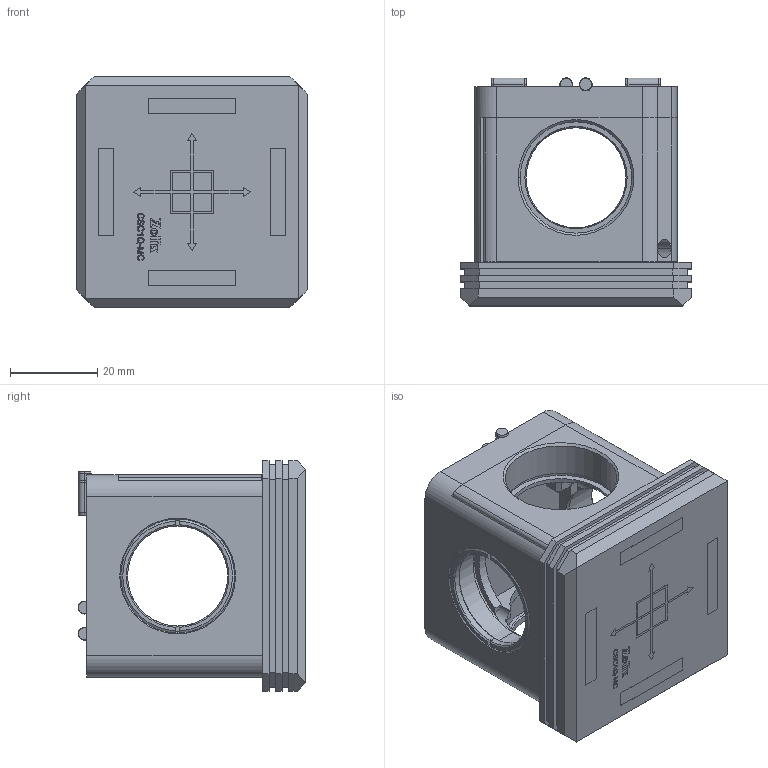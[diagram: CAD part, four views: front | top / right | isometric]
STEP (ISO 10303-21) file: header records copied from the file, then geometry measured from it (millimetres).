
FILE_DESCRIPTION (( 'STEP AP203' ), '1' );
FILE_NAME ('CSC1Q-MC-A.STEP', '2024-03-28T03:20:13', ( '' ), ( '' ), 'SwSTEP 2.0', 'SolidWorks 2021', '' );
FILE_SCHEMA (( 'CONFIG_CONTROL_DESIGN' ));
Length unit declared in the file: millimetre
Products named in the file (1): CSC1Q-MC-A
Bounding box: 53 x 52.4 x 53 mm (x, y, z)
Surface area: 24608.5 mm2 (no closed solid volume)
Topology: 0 solids, 35 shells, 441 faces, 1733 edges, 1316 vertices
Faces by surface type: plane 282, cylinder 82, cone 60, torus 12, bspline 5
Entity records: 20097 total; most frequent: CARTESIAN_POINT 5832, DIRECTION 2829, ORIENTED_EDGE 2631, EDGE_CURVE 1727, VERTEX_POINT 1316, VECTOR 1215, LINE 1215, AXIS2_PLACEMENT_3D 807
